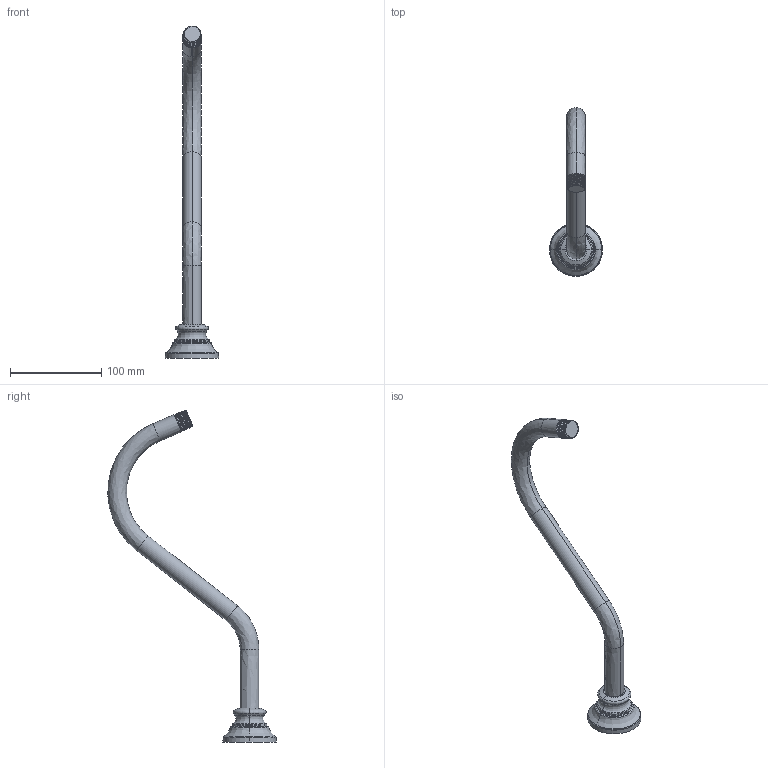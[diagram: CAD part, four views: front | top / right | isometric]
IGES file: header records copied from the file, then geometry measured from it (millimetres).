
Start section:  PTC IGES file: sku_s113.igs
Global section: file name: sku_s113.igs; native system: Pro/ENGINEER by Parametric Technology Corporation; preprocessor: 2006460; author: 9dutterb; organization: Unknown; date: 20071108.142013; units: inch
Bounding box: 58.42 x 184.86 x 364.65 mm (x, y, z)
Surface area: 38683 mm2 (no closed solid volume)
Topology: 0 solids, 0 shells, 63 faces, 296 edges, 296 vertices
Faces by surface type: revolution 52, bspline 11
